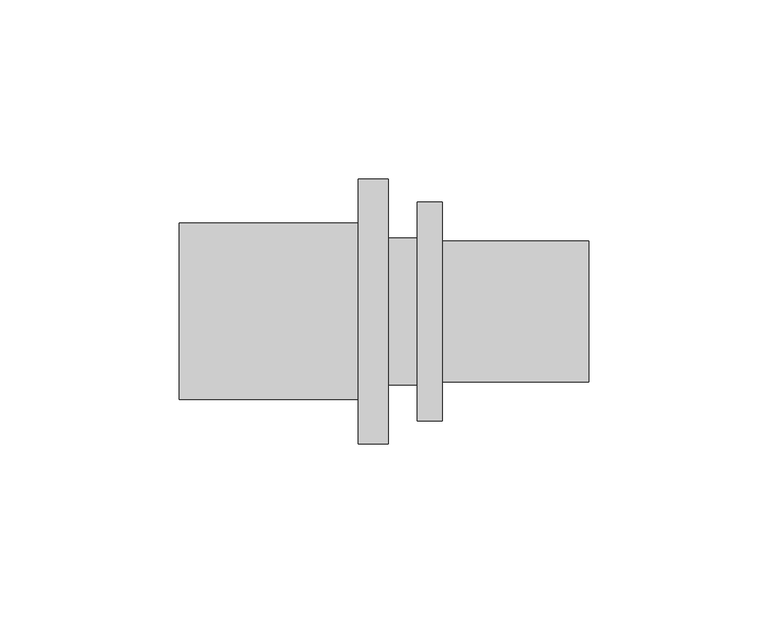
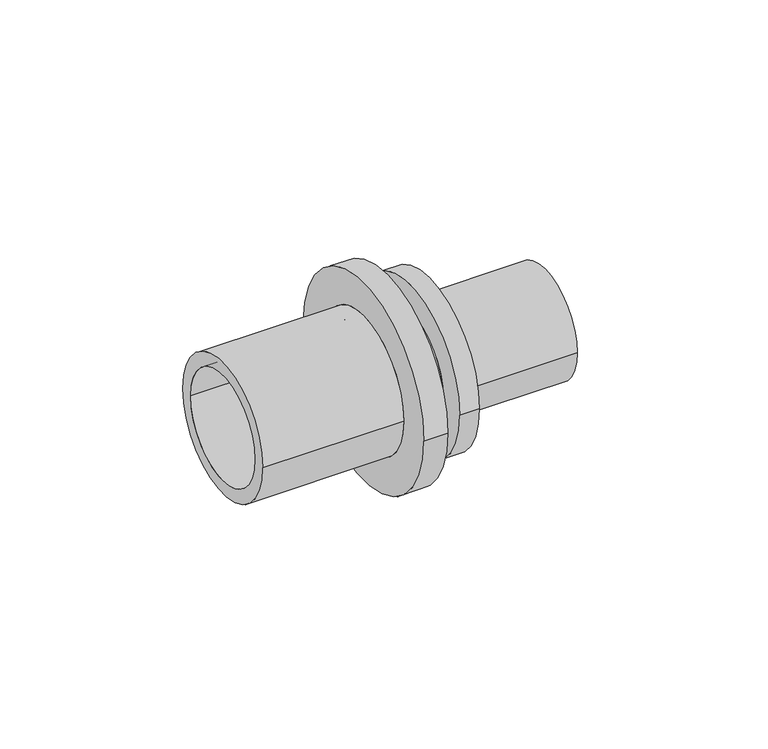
"""IFC4 building model written with IfcOpenShell, lengths in millimetres: pipe fitting geometry, RAUTITAN_Transition_RX+ : RTI RX+ Tr DE."""

from ifc_helpers import new_model, si_unit, frame, origin, place, context, project, spatial, polyline, circle_curve, source, transform, mapped, element, save
from ifc_brep_helpers import plane_surface, cylinder_surface, revolved_surface, advanced_brep


def pipe_fitting_fb40a9e9(model_context):
    return source(origin(), model_context, "Body", "AdvancedBrep", [
        advanced_brep(
        [(-62.5, 19.75, 0.0), (-62.5, -19.75, 0.0), (-12.5, -19.75, 0.0), (-12.5, 19.75, 0.0), (4.0, 20.55, 0.0), (4.0, -20.55, 0.0), (-4.0, -20.55, 0.0), (-4.0, 20.55, 0.0), (11.0, 30.55, 0.0), (11.0, -30.55, 0.0), (4.0, -30.55, 0.0), (4.0, 30.55, 0.0), (52.0, 19.65, 0.0), (52.0, -19.65, 0.0), (11.0, -19.65, 0.0), (11.0, 19.65, 0.0), (-8.0, 15.25, 0.0), (-8.0, -15.25, 0.0), (52.0, -15.25, 0.0), (52.0, 15.25, 0.0), (-4.0, 37.05, 0.0), (-4.0, -37.05, 0.0), (-12.5, 24.65, 0.0), (-12.5, -24.65, 0.0), (-62.5, -24.65, 0.0), (-62.5, 24.65, 0.0), (-12.5, -37.05, 0.0), (-12.5, 37.05, 0.0)],
        [
            (0, 1, circle_curve(frame((-62.5, 0.0, 0.0), z_axis=(-1.0, 0.0, 0.0), x_axis=(0.0, -1.0, 0.0)), 19.75)),
            (1, 2),
            (2, 3, circle_curve(frame((-12.5, 0.0, 0.0), z_axis=(1.0, 0.0, 0.0), x_axis=(0.0, -1.0, 0.0)), 19.75)),
            (3, 0),
            (4, 5, circle_curve(frame((4.0, 0.0, 0.0), z_axis=(-1.0, 0.0, 0.0), x_axis=(0.0, -1.0, 0.0)), 20.55)),
            (5, 6),
            (6, 7, circle_curve(frame((-4.0, 0.0, 0.0), z_axis=(1.0, 0.0, 0.0), x_axis=(0.0, -1.0, 0.0)), 20.55)),
            (7, 4),
            (8, 9, circle_curve(frame((11.0, 0.0, 0.0), z_axis=(-1.0, 0.0, 0.0), x_axis=(0.0, -1.0, 0.0)), 30.55)),
            (9, 10),
            (10, 11, circle_curve(frame((4.0, 0.0, 0.0), z_axis=(1.0, 0.0, 0.0), x_axis=(0.0, -1.0, 0.0)), 30.55)),
            (11, 8),
            (12, 13, circle_curve(frame((52.0, 0.0, 0.0), z_axis=(-1.0, 0.0, 0.0), x_axis=(0.0, -1.0, 0.0)), 19.65)),
            (13, 14),
            (14, 15, circle_curve(frame((11.0, 0.0, 0.0), z_axis=(1.0, 0.0, 0.0), x_axis=(0.0, -1.0, 0.0)), 19.65)),
            (15, 12),
            (16, 17, circle_curve(frame((-8.0, 0.0, 0.0), z_axis=(-1.0, 0.0, 0.0), x_axis=(0.0, -1.0, 0.0)), 15.25)),
            (17, 18),
            (18, 19, circle_curve(frame((52.0, 0.0, 0.0), z_axis=(1.0, 0.0, 0.0), x_axis=(0.0, -1.0, 0.0)), 15.25)),
            (19, 16),
            (2, 17),
            (16, 3),
            (1, 0, circle_curve(frame((-62.5, 0.0, 0.0), z_axis=(-1.0, 0.0, 0.0), x_axis=(0.0, 1.0, 0.0)), 19.75)),
            (3, 2, circle_curve(frame((-12.5, 0.0, 0.0), z_axis=(1.0, 0.0, 0.0), x_axis=(0.0, 1.0, 0.0)), 19.75)),
            (20, 21, circle_curve(frame((-4.0, 0.0, 0.0), z_axis=(1.0, 0.0, 0.0), x_axis=(0.0, 1.0, 0.0)), 37.05)),
            (21, 20, circle_curve(frame((-4.0, 0.0, 0.0), z_axis=(1.0, 0.0, 0.0), x_axis=(0.0, -1.0, 0.0)), 37.05)),
            (6, 7, circle_curve(frame((-4.0, 0.0, 0.0), z_axis=(-1.0, 0.0, 0.0), x_axis=(0.0, 1.0, 0.0)), 20.55)),
            (5, 4, circle_curve(frame((4.0, 0.0, 0.0), z_axis=(-1.0, 0.0, 0.0), x_axis=(0.0, 1.0, 0.0)), 20.55)),
            (10, 11, circle_curve(frame((4.0, 0.0, 0.0), z_axis=(-1.0, 0.0, 0.0), x_axis=(0.0, 1.0, 0.0)), 30.55)),
            (9, 8, circle_curve(frame((11.0, 0.0, 0.0), z_axis=(-1.0, 0.0, 0.0), x_axis=(0.0, 1.0, 0.0)), 30.55)),
            (14, 15, circle_curve(frame((11.0, 0.0, 0.0), z_axis=(-1.0, 0.0, 0.0), x_axis=(0.0, 1.0, 0.0)), 19.65)),
            (13, 12, circle_curve(frame((52.0, 0.0, 0.0), z_axis=(-1.0, 0.0, 0.0), x_axis=(0.0, 1.0, 0.0)), 19.65)),
            (18, 19, circle_curve(frame((52.0, 0.0, 0.0), z_axis=(-1.0, 0.0, 0.0), x_axis=(0.0, 1.0, 0.0)), 15.25)),
            (17, 16, circle_curve(frame((-8.0, 0.0, 0.0), z_axis=(-1.0, 0.0, 0.0), x_axis=(0.0, 1.0, 0.0)), 15.25)),
            (22, 23, circle_curve(frame((-12.5, 0.0, 0.0), z_axis=(-1.0, 0.0, 0.0), x_axis=(0.0, -1.0, 0.0)), 24.65)),
            (23, 24),
            (24, 25, circle_curve(frame((-62.5, 0.0, 0.0), z_axis=(1.0, 0.0, 0.0), x_axis=(0.0, -1.0, 0.0)), 24.65)),
            (25, 22),
            (21, 26),
            (26, 27, circle_curve(frame((-12.5, 0.0, 0.0), z_axis=(1.0, 0.0, 0.0), x_axis=(0.0, -1.0, 0.0)), 37.05)),
            (27, 20),
            (24, 25, circle_curve(frame((-62.5, 0.0, 0.0), z_axis=(-1.0, 0.0, 0.0), x_axis=(0.0, 1.0, 0.0)), 24.65)),
            (23, 22, circle_curve(frame((-12.5, 0.0, 0.0), z_axis=(-1.0, 0.0, 0.0), x_axis=(0.0, 1.0, 0.0)), 24.65)),
            (26, 27, circle_curve(frame((-12.5, 0.0, 0.0), z_axis=(-1.0, 0.0, 0.0), x_axis=(0.0, 1.0, 0.0)), 37.05)),
        ],
        [
            revolved_surface(polyline([(-12.5, -19.75, 0.0), (-62.5, -19.75, 0.0)]), (0.0, 0.0, 0.0), (1.0, 0.0, 0.0)),
            cylinder_surface(frame((0.0, 0.0, 0.0), z_axis=(1.0, 0.0, 0.0), x_axis=(0.0, -1.0, 0.0)), 20.55),
            cylinder_surface(frame((0.0, 0.0, 0.0), z_axis=(1.0, 0.0, 0.0), x_axis=(0.0, -1.0, 0.0)), 30.55),
            cylinder_surface(frame((0.0, 0.0, 0.0), z_axis=(1.0, 0.0, 0.0), x_axis=(0.0, -1.0, 0.0)), 19.65),
            revolved_surface(polyline([(52.0, -15.25, 0.0), (-8.0, -15.25, 0.0)]), (0.0, 0.0, 0.0), (1.0, 0.0, 0.0)),
            revolved_surface(polyline([(-8.0, -15.25, 0.0), (-12.5, -19.75, 0.0)]), (0.0, 0.0, 0.0), (1.0, 0.0, 0.0)),
            revolved_surface(polyline([(-12.5, 19.75, 0.0), (-62.5, 19.75, 0.0)]), (0.0, 0.0, 0.0), (1.0, 0.0, 0.0)),
            plane_surface(frame((-4.0, 0.0, 0.0), z_axis=(1.0, 0.0, 0.0), x_axis=(0.0, 1.0, 0.0))),
            cylinder_surface(frame((0.0, 0.0, 0.0), z_axis=(1.0, 0.0, 0.0), x_axis=(0.0, 1.0, 0.0)), 20.55),
            plane_surface(frame((4.0, 0.0, 0.0), z_axis=(-1.0, 0.0, 0.0), x_axis=(0.0, 1.0, 0.0))),
            cylinder_surface(frame((0.0, 0.0, 0.0), z_axis=(1.0, 0.0, 0.0), x_axis=(0.0, 1.0, 0.0)), 30.55),
            plane_surface(frame((11.0, 0.0, 0.0), z_axis=(1.0, 0.0, 0.0), x_axis=(0.0, 1.0, 0.0))),
            cylinder_surface(frame((0.0, 0.0, 0.0), z_axis=(1.0, 0.0, 0.0), x_axis=(0.0, 1.0, 0.0)), 19.65),
            plane_surface(frame((52.0, 0.0, 0.0), z_axis=(1.0, 0.0, 0.0), x_axis=(0.0, 1.0, 0.0))),
            revolved_surface(polyline([(52.0, 15.25, 0.0), (-8.0, 15.25, 0.0)]), (0.0, 0.0, 0.0), (1.0, 0.0, 0.0)),
            revolved_surface(polyline([(-8.0, 15.25, 0.0), (-12.5, 19.75, 0.0)]), (0.0, 0.0, 0.0), (1.0, 0.0, 0.0)),
            cylinder_surface(frame((0.0, 0.0, 0.0), z_axis=(1.0, 0.0, 0.0), x_axis=(0.0, -1.0, 0.0)), 24.65),
            cylinder_surface(frame((0.0, 0.0, 0.0), z_axis=(1.0, 0.0, 0.0), x_axis=(0.0, -1.0, 0.0)), 37.05),
            plane_surface(frame((-62.5, 0.0, 0.0), z_axis=(-1.0, 0.0, 0.0), x_axis=(0.0, 1.0, 0.0))),
            cylinder_surface(frame((0.0, 0.0, 0.0), z_axis=(1.0, 0.0, 0.0), x_axis=(0.0, 1.0, 0.0)), 24.65),
            plane_surface(frame((-12.5, 0.0, 0.0), z_axis=(-1.0, 0.0, 0.0), x_axis=(0.0, 1.0, 0.0))),
            cylinder_surface(frame((0.0, 0.0, 0.0), z_axis=(1.0, 0.0, 0.0), x_axis=(0.0, 1.0, 0.0)), 37.05),
        ],
        [
            (0, [[1, 2, 3, 4]]),
            (1, [[5, 6, 7, 8]]),
            (2, [[9, 10, 11, 12]]),
            (3, [[13, 14, 15, 16]]),
            (4, [[17, 18, 19, 20]]),
            (5, [[-3, 21, -17, 22]]),
            (6, [[23, -4, 24, -2]]),
            (7, [[25, 26], [27, -7]]),
            (8, [[28, -8, -27, -6]]),
            (9, [[29, -11], [-28, -5]]),
            (10, [[30, -12, -29, -10]]),
            (11, [[-30, -9], [31, -15]]),
            (12, [[32, -16, -31, -14]]),
            (13, [[-32, -13], [33, -19]]),
            (14, [[34, -20, -33, -18]]),
            (15, [[-24, -22, -34, -21]]),
            (16, [[35, 36, 37, 38]]),
            (17, [[-26, 39, 40, 41]]),
            (18, [[42, -37], [-23, -1]]),
            (19, [[43, -38, -42, -36]]),
            (20, [[44, -40], [-43, -35]]),
            (21, [[-25, -41, -44, -39]]),
        ],
    ),
    ])


if __name__ == "__main__":
    model = new_model("IFC4")
    model_context = context("Model", 3, world=origin())
    ifc_project = project(units=[si_unit("LENGTHUNIT", "METRE", prefix="MILLI")], contexts=[model_context])
    site = spatial("IfcSite", under=ifc_project)
    building = spatial("IfcBuilding", under=site)
    placement = place(None, origin())
    pipe_fitting_shape = pipe_fitting_fb40a9e9(model_context)
    element("IfcPipeFitting", 1, ObjectType="RAUTITAN_Transition_RX+ : RTI RX+ Tr DE", at=placement, inside=building, context=model_context, shape_type="MappedRepresentation", body=[
        mapped(pipe_fitting_shape, transform((0.0, 0.0, 0.0), x_axis=(1.0, 0.0, 0.0), y_axis=(0.0, 1.0, 0.0), z_axis=(0.0, 0.0, 1.0))),
    ])
    save(model, "model.ifc")
